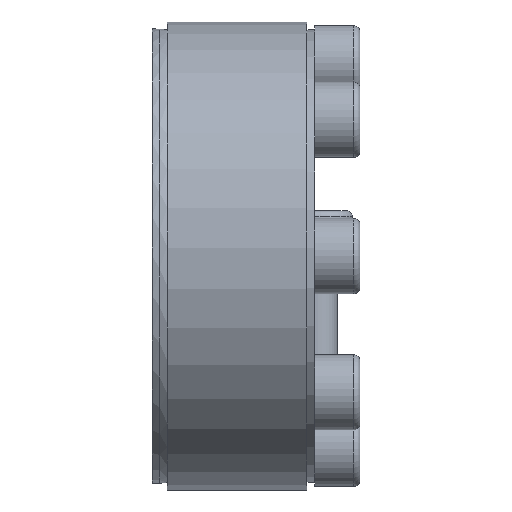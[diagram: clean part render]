
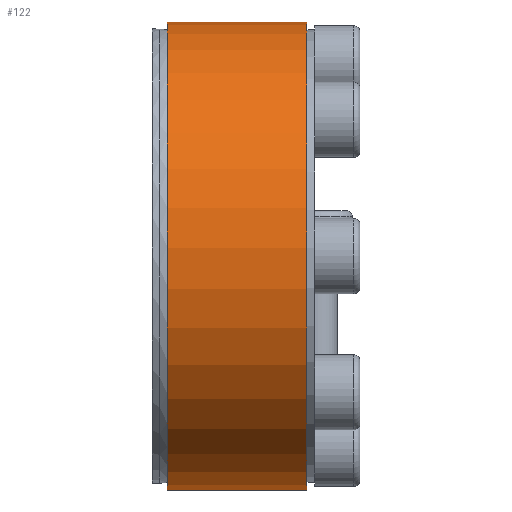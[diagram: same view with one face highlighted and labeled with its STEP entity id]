
A CAD part, left-side view. The second image highlights one B-rep face of the part: STEP entity #122.
In plain terms, the highlighted cylindrical face has radius 31 mm (diameter 62 mm), a partial arc.
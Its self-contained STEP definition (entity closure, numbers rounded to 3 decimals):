
#122 = ADVANCED_FACE( '', ( #262 ), #263, .T. );
#262 = FACE_OUTER_BOUND( '', #404, .T. );
#263 = CYLINDRICAL_SURFACE( '', #405, 31. );
#404 = EDGE_LOOP( '', ( #688, #689, #690, #691 ) );
#405 = AXIS2_PLACEMENT_3D( '', #692, #693, #694 );
#688 = ORIENTED_EDGE( '', *, *, #817, .F. );
#689 = ORIENTED_EDGE( '', *, *, #839, .T. );
#690 = ORIENTED_EDGE( '', *, *, #848, .T. );
#691 = ORIENTED_EDGE( '', *, *, #808, .F. );
#692 = CARTESIAN_POINT( '', ( 0., -60., 0. ) );
#693 = DIRECTION( '', ( 0., 1., 0. ) );
#694 = DIRECTION( '', ( 0., 0., -1. ) );
#808 = EDGE_CURVE( '', #992, #994, #995, .T. );
#817 = EDGE_CURVE( '', #1009, #992, #1010, .T. );
#839 = EDGE_CURVE( '', #1009, #1036, #1037, .T. );
#848 = EDGE_CURVE( '', #1036, #994, #1047, .T. );
#992 = VERTEX_POINT( '', #1291 );
#994 = VERTEX_POINT( '', #1294 );
#995 = CIRCLE( '', #1295, 31. );
#1009 = VERTEX_POINT( '', #1315 );
#1010 = LINE( '', #1316, #1317 );
#1036 = VERTEX_POINT( '', #1352 );
#1037 = CIRCLE( '', #1353, 31. );
#1047 = LINE( '', #1366, #1367 );
#1291 = CARTESIAN_POINT( '', ( 11.167, 1., 28.919 ) );
#1294 = CARTESIAN_POINT( '', ( 12.553, 1., 28.345 ) );
#1295 = AXIS2_PLACEMENT_3D( '', #1487, #1488, #1489 );
#1315 = CARTESIAN_POINT( '', ( 11.167, 19.5, 28.919 ) );
#1316 = CARTESIAN_POINT( '', ( 11.167, -60., 28.919 ) );
#1317 = VECTOR( '', #1496, 1000. );
#1352 = CARTESIAN_POINT( '', ( 12.553, 19.5, 28.345 ) );
#1353 = AXIS2_PLACEMENT_3D( '', #1515, #1516, #1517 );
#1366 = CARTESIAN_POINT( '', ( 12.553, -60., 28.345 ) );
#1367 = VECTOR( '', #1527, 1000. );
#1487 = CARTESIAN_POINT( '', ( 0., 1., 0. ) );
#1488 = DIRECTION( '', ( 0., -1., 0. ) );
#1489 = DIRECTION( '', ( 0., 0., -1. ) );
#1496 = DIRECTION( '', ( 0., -1., 0. ) );
#1515 = CARTESIAN_POINT( '', ( 0., 19.5, 0. ) );
#1516 = DIRECTION( '', ( 0., -1., 0. ) );
#1517 = DIRECTION( '', ( 0., 0., -1. ) );
#1527 = DIRECTION( '', ( 0., -1., 0. ) );
